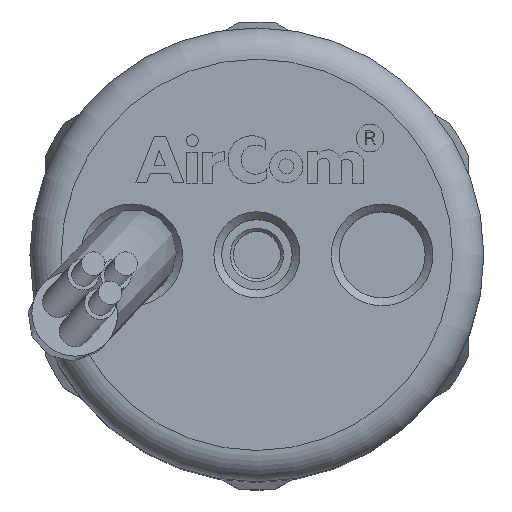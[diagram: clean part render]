
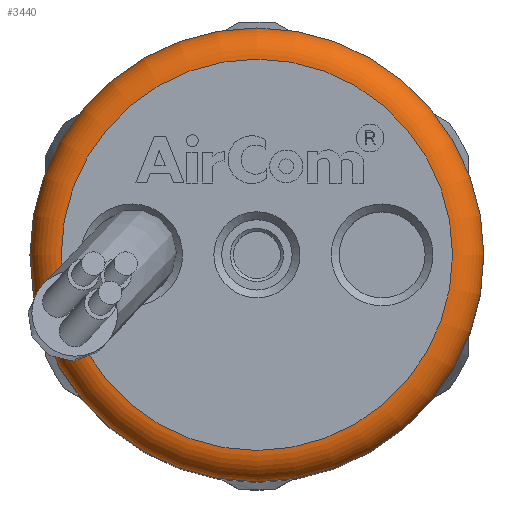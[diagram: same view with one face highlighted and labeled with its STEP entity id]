
A CAD part, top view. The second image highlights one B-rep face of the part: STEP entity #3440.
In plain terms, the highlighted toroidal (fillet/blend) face has major radius 12.5 mm and minor radius 2 mm.
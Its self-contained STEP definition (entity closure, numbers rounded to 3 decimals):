
#2089=CARTESIAN_POINT('',(12.5,0.,57.7));
#2090=VERTEX_POINT('',#2089);
#2091=CARTESIAN_POINT('',(0.0,0.0,57.7));
#2092=DIRECTION('',(0.0,0.0,-1.0));
#2093=DIRECTION('',(-1.0,0.0,0.0));
#2094=AXIS2_PLACEMENT_3D('',#2091,#2092,#2093);
#2095=CIRCLE('',#2094,12.5);
#2096=EDGE_CURVE('',#2090,#2090,#2095,.T.);
#3421=CARTESIAN_POINT('',(0.0,0.0,55.7));
#3422=DIRECTION('',(0.0,0.0,-1.0));
#3423=DIRECTION('',(-1.0,0.0,0.0));
#3424=AXIS2_PLACEMENT_3D('',#3421,#3422,#3423);
#3425=TOROIDAL_SURFACE('',#3424,12.5,2.0);
#3426=ORIENTED_EDGE('',*,*,#2096,.T.);
#3427=EDGE_LOOP('',(#3426));
#3428=FACE_OUTER_BOUND('',#3427,.T.);
#3429=CARTESIAN_POINT('',(14.5,0.,55.7));
#3430=VERTEX_POINT('',#3429);
#3431=CARTESIAN_POINT('',(0.0,0.0,55.7));
#3432=DIRECTION('',(0.0,0.0,1.0));
#3433=DIRECTION('',(-1.0,0.0,0.0));
#3434=AXIS2_PLACEMENT_3D('',#3431,#3432,#3433);
#3435=CIRCLE('',#3434,14.5);
#3436=EDGE_CURVE('',#3430,#3430,#3435,.T.);
#3437=ORIENTED_EDGE('',*,*,#3436,.T.);
#3438=EDGE_LOOP('',(#3437));
#3439=FACE_BOUND('',#3438,.T.);
#3440=ADVANCED_FACE('',(#3428,#3439),#3425,.T.);
